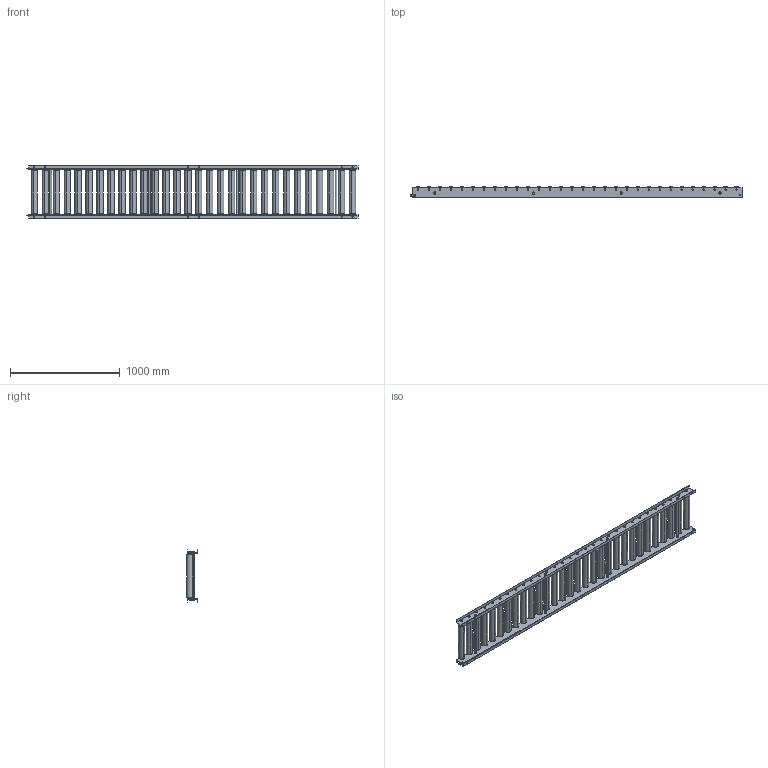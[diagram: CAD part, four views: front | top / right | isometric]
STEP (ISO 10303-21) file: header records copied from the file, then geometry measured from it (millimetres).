
FILE_DESCRIPTION (( 'STEP AP203' ), '1' );
FILE_NAME ('R-5714NB.step', '2024-02-20T08:16:55', ( '' ), ( '' ), 'SwSTEP 2.0', 'SolidWorks 2023', '' );
FILE_SCHEMA (( 'CONFIG_CONTROL_DESIGN' ));
Length unit declared in the file: millimetre
Products named in the file (1): R-5714NB
Bounding box: 3025 x 100.1 x 475 mm (x, y, z)
Volume: 32546303.4 mm3; surface area: 5582885.5 mm2
Topology: 84 solids, 84 shells, 1280 faces, 2932 edges, 1888 vertices
Faces by surface type: cylinder 622, plane 490, torus 120, cone 48
Entity records: 37571 total; most frequent: DIRECTION 7018, CARTESIAN_POINT 6773, ORIENTED_EDGE 5864, AXIS2_PLACEMENT_3D 2933, EDGE_CURVE 2932, VERTEX_POINT 1888, CIRCLE 1652, EDGE_LOOP 1652
